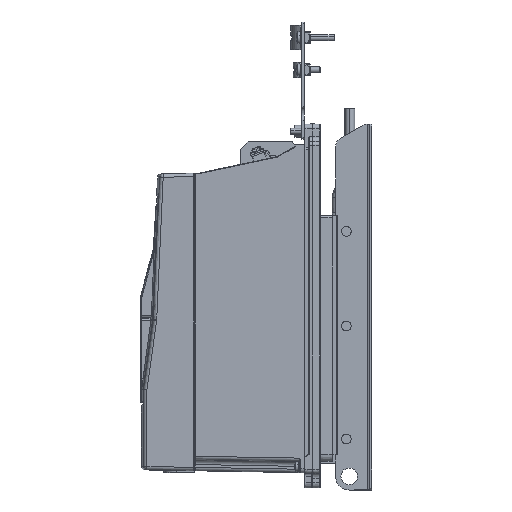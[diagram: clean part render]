
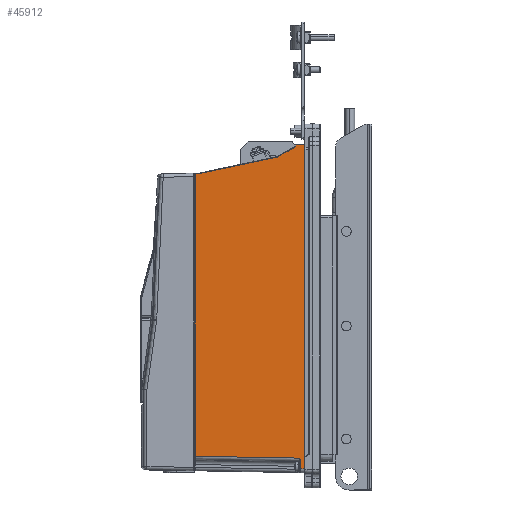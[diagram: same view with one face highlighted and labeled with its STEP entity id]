
A CAD part, left-side view. The second image highlights one B-rep face of the part: STEP entity #45912.
In plain terms, the highlighted planar face has unit normal (-1, 0.018, 0).
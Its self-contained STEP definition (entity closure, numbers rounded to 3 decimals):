
#1762 = EDGE_CURVE ( 'NONE', #13041, #16799, #10167, .T. ) ;
#3049 = CARTESIAN_POINT ( 'NONE',  ( -110.747, -49.991, -165.929 ) ) ;
#4026 = VERTEX_POINT ( 'NONE', #10146 ) ;
#4262 = DIRECTION ( 'NONE',  ( 0., 0., -1. ) ) ;
#5536 = VERTEX_POINT ( 'NONE', #27447 ) ;
#5671 = ORIENTED_EDGE ( 'NONE', *, *, #99084, .T. ) ;
#5962 =( BOUNDED_CURVE ( )  B_SPLINE_CURVE ( 3, ( #25282, #67404, #36617, #7217 ),
 .UNSPECIFIED., .F., .T. ) 
 B_SPLINE_CURVE_WITH_KNOTS ( ( 4, 4 ),
 ( 4.398, 4.712 ),
 .UNSPECIFIED. ) 
 CURVE ( )  GEOMETRIC_REPRESENTATION_ITEM ( )  RATIONAL_B_SPLINE_CURVE ( ( 1., 0.992, 0.992, 1. ) ) 
 REPRESENTATION_ITEM ( '' )  );
#6393 = DIRECTION ( 'NONE',  ( 0., 0., -1. ) ) ;
#6709 = CARTESIAN_POINT ( 'NONE',  ( -110.654, -44.808, 164.1 ) ) ;
#7217 = CARTESIAN_POINT ( 'NONE',  ( -110.332, -26.837, 153.723 ) ) ;
#7284 = VERTEX_POINT ( 'NONE', #102631 ) ;
#8069 = VECTOR ( 'NONE', #18035, 1000. ) ;
#8194 = ORIENTED_EDGE ( 'NONE', *, *, #116761, .T. ) ;
#9026 = ORIENTED_EDGE ( 'NONE', *, *, #95732, .F. ) ;
#9990 = VECTOR ( 'NONE', #89644, 1000. ) ;
#10146 = CARTESIAN_POINT ( 'NONE',  ( -110.332, -26.837, 153.723 ) ) ;
#10161 = VERTEX_POINT ( 'NONE', #3049 ) ;
#10167 = LINE ( 'NONE', #119344, #81721 ) ;
#10898 = ORIENTED_EDGE ( 'NONE', *, *, #64789, .F. ) ;
#11165 = LINE ( 'NONE', #102760, #70337 ) ;
#12871 = DIRECTION ( 'NONE',  ( 0.018, 1., 0. ) ) ;
#13041 = VERTEX_POINT ( 'NONE', #53077 ) ;
#13979 = CARTESIAN_POINT ( 'NONE',  ( -110.738, -49.482, -155.814 ) ) ;
#15276 = CARTESIAN_POINT ( 'NONE',  ( -110.745, -49.84, -156.69 ) ) ;
#16299 = EDGE_CURVE ( 'NONE', #10161, #23454, #11165, .T. ) ;
#16716 = CARTESIAN_POINT ( 'NONE',  ( -110.658, -44.991, 164.784 ) ) ;
#16799 = VERTEX_POINT ( 'NONE', #41734 ) ;
#17252 = CARTESIAN_POINT ( 'NONE',  ( -110.819, -54., 166. ) ) ;
#17343 = VECTOR ( 'NONE', #101302, 1000. ) ;
#18035 = DIRECTION ( 'NONE',  ( 0.018, 1., -0.017 ) ) ;
#19732 = CARTESIAN_POINT ( 'NONE',  ( -110.747, -49.991, -165.921 ) ) ;
#21921 =( BOUNDED_CURVE ( )  B_SPLINE_CURVE ( 3, ( #61088, #51017, #32282, #63036 ),
 .UNSPECIFIED., .F., .T. ) 
 B_SPLINE_CURVE_WITH_KNOTS ( ( 4, 4 ),
 ( 1.588, 1.78 ),
 .UNSPECIFIED. ) 
 CURVE ( )  GEOMETRIC_REPRESENTATION_ITEM ( )  RATIONAL_B_SPLINE_CURVE ( ( 1., 0.997, 0.997, 1. ) ) 
 REPRESENTATION_ITEM ( '' )  );
#22745 = VECTOR ( 'NONE', #105195, 1000. ) ;
#23454 = VERTEX_POINT ( 'NONE', #95020 ) ;
#24003 = CARTESIAN_POINT ( 'NONE',  ( -110.743, -49.76, -156.465 ) ) ;
#24117 = EDGE_LOOP ( 'NONE', ( #10898, #52427, #5671, #88235, #109429, #113691, #51712, #9026, #77729, #36623, #125024, #43619, #8194, #103725 ) ) ;
#24645 = EDGE_CURVE ( 'NONE', #70267, #4026, #5962, .T. ) ;
#25282 = CARTESIAN_POINT ( 'NONE',  ( -110.326, -26.545, 153.611 ) ) ;
#27447 = CARTESIAN_POINT ( 'NONE',  ( -110.658, -44.991, 166. ) ) ;
#32282 = CARTESIAN_POINT ( 'NONE',  ( -108.889, 53.518, 136.593 ) ) ;
#33676 = LINE ( 'NONE', #74469, #22745 ) ;
#34031 = CARTESIAN_POINT ( 'NONE',  ( -110.747, -49.991, -157.617 ) ) ;
#35518 = LINE ( 'NONE', #107046, #9990 ) ;
#36617 = CARTESIAN_POINT ( 'NONE',  ( -110.33, -26.746, 153.671 ) ) ;
#36623 = ORIENTED_EDGE ( 'NONE', *, *, #1762, .T. ) ;
#38072 = VECTOR ( 'NONE', #49155, 1000. ) ;
#38799 = CARTESIAN_POINT ( 'NONE',  ( -110.326, -26.545, 153.611 ) ) ;
#40586 = LINE ( 'NONE', #81383, #59442 ) ;
#41004 = FACE_OUTER_BOUND ( 'NONE', #24117, .T. ) ;
#41734 = CARTESIAN_POINT ( 'NONE',  ( -108.809, 58.009, -153.124 ) ) ;
#43619 = ORIENTED_EDGE ( 'NONE', *, *, #82553, .T. ) ;
#45912 = ADVANCED_FACE ( 'NONE', ( #41004 ), #61730, .F. ) ;
#47603 = AXIS2_PLACEMENT_3D ( 'NONE', #114494, #102523, #12871 ) ;
#49155 = DIRECTION ( 'NONE',  ( 0.016, 0.866, -0.5 ) ) ;
#51017 = CARTESIAN_POINT ( 'NONE',  ( -108.888, 53.582, 136.586 ) ) ;
#51456 = CARTESIAN_POINT ( 'NONE',  ( -110.649, -44.491, 163.917 ) ) ;
#51712 = ORIENTED_EDGE ( 'NONE', *, *, #85298, .T. ) ;
#52427 = ORIENTED_EDGE ( 'NONE', *, *, #110424, .T. ) ;
#53077 = CARTESIAN_POINT ( 'NONE',  ( -108.809, 58.009, 136.509 ) ) ;
#53239 = DIRECTION ( 'NONE',  ( -0.018, -1., -0.018 ) ) ;
#54262 = DIRECTION ( 'NONE',  ( -0.018, -1., -0.017 ) ) ;
#56957 = VERTEX_POINT ( 'NONE', #17252 ) ;
#58486 = CARTESIAN_POINT ( 'NONE',  ( -110.73, -49.009, -154.992 ) ) ;
#59442 = VECTOR ( 'NONE', #122134, 1000. ) ;
#59473 = CARTESIAN_POINT ( 'NONE',  ( -110.658, -44.991, 164.418 ) ) ;
#59858 = LINE ( 'NONE', #19732, #17343 ) ;
#61088 = CARTESIAN_POINT ( 'NONE',  ( -108.887, 53.646, 136.585 ) ) ;
#61704 = VERTEX_POINT ( 'NONE', #81890 ) ;
#61730 = PLANE ( 'NONE',  #47603 ) ;
#63036 = CARTESIAN_POINT ( 'NONE',  ( -108.891, 53.455, 136.607 ) ) ;
#63714 = VECTOR ( 'NONE', #54262, 1000. ) ;
#63788 = CARTESIAN_POINT ( 'NONE',  ( -110.819, -54., 170. ) ) ;
#64789 = EDGE_CURVE ( 'NONE', #56957, #23454, #95863, .T. ) ;
#67404 = CARTESIAN_POINT ( 'NONE',  ( -110.328, -26.648, 153.633 ) ) ;
#68592 = CARTESIAN_POINT ( 'NONE',  ( -110.33, -26.763, 153.681 ) ) ;
#69527 = LINE ( 'NONE', #108966, #8069 ) ;
#70267 = VERTEX_POINT ( 'NONE', #38799 ) ;
#70337 = VECTOR ( 'NONE', #53239, 1000. ) ;
#71067 = LINE ( 'NONE', #81092, #63714 ) ;
#71898 = CARTESIAN_POINT ( 'NONE',  ( -110.658, -44.991, 164.784 ) ) ;
#73695 = VERTEX_POINT ( 'NONE', #51456 ) ;
#74469 = CARTESIAN_POINT ( 'NONE',  ( -108.8, 58.5, 166. ) ) ;
#76168 = CARTESIAN_POINT ( 'NONE',  ( -110.734, -49.246, -155.402 ) ) ;
#77729 = ORIENTED_EDGE ( 'NONE', *, *, #100454, .T. ) ;
#79528 = VERTEX_POINT ( 'NONE', #71898 ) ;
#81092 = CARTESIAN_POINT ( 'NONE',  ( -108.699, 64.136, -153.017 ) ) ;
#81383 = CARTESIAN_POINT ( 'NONE',  ( -108.926, 51.493, 137.024 ) ) ;
#81721 = VECTOR ( 'NONE', #6393, 1000. ) ;
#81890 = CARTESIAN_POINT ( 'NONE',  ( -108.887, 53.646, 136.585 ) ) ;
#82553 = EDGE_CURVE ( 'NONE', #103867, #95142, #103325, .T. ) ;
#84621 = EDGE_CURVE ( 'NONE', #73695, #4026, #120691, .T. ) ;
#84862 = CARTESIAN_POINT ( 'NONE',  ( -110.747, -49.956, -157.147 ) ) ;
#85298 = EDGE_CURVE ( 'NONE', #70267, #7284, #40586, .T. ) ;
#87019 = EDGE_CURVE ( 'NONE', #16799, #103867, #71067, .T. ) ;
#88235 = ORIENTED_EDGE ( 'NONE', *, *, #114232, .F. ) ;
#89644 = DIRECTION ( 'NONE',  ( 0., 0., -1. ) ) ;
#95020 = CARTESIAN_POINT ( 'NONE',  ( -110.819, -54., -166.001 ) ) ;
#95142 = VERTEX_POINT ( 'NONE', #97397 ) ;
#95732 = EDGE_CURVE ( 'NONE', #61704, #7284, #21921, .T. ) ;
#95863 = LINE ( 'NONE', #63788, #130547 ) ;
#96197 = CARTESIAN_POINT ( 'NONE',  ( -110.747, -49.991, -157.379 ) ) ;
#97397 = CARTESIAN_POINT ( 'NONE',  ( -110.747, -49.991, -157.617 ) ) ;
#99084 = EDGE_CURVE ( 'NONE', #5536, #79528, #35518, .T. ) ;
#100454 = EDGE_CURVE ( 'NONE', #61704, #13041, #69527, .T. ) ;
#101302 = DIRECTION ( 'NONE',  ( 0., 0., -1. ) ) ;
#102523 = DIRECTION ( 'NONE',  ( 1., -0.018, 0. ) ) ;
#102631 = CARTESIAN_POINT ( 'NONE',  ( -108.891, 53.455, 136.607 ) ) ;
#102760 = CARTESIAN_POINT ( 'NONE',  ( -108.693, 64.434, -163.895 ) ) ;
#103325 = B_SPLINE_CURVE_WITH_KNOTS ( 'NONE', 3,
 ( #125609, #76168, #13979, #24003, #15276, #84862, #96197, #34031 ),
 .UNSPECIFIED., .F., .F.,
 ( 4, 2, 2, 4 ),
 ( 0., 0.001, 0.002, 0.003 ),
 .UNSPECIFIED. ) ;
#103725 = ORIENTED_EDGE ( 'NONE', *, *, #16299, .T. ) ;
#103867 = VERTEX_POINT ( 'NONE', #58486 ) ;
#105195 = DIRECTION ( 'NONE',  ( 0.018, 1., 0. ) ) ;
#107046 = CARTESIAN_POINT ( 'NONE',  ( -110.658, -44.991, 170. ) ) ;
#108324 = CARTESIAN_POINT ( 'NONE',  ( -110.649, -44.491, 163.917 ) ) ;
#108966 = CARTESIAN_POINT ( 'NONE',  ( -108.81, 57.916, 136.51 ) ) ;
#109429 = ORIENTED_EDGE ( 'NONE', *, *, #84621, .T. ) ;
#110424 = EDGE_CURVE ( 'NONE', #56957, #5536, #33676, .T. ) ;
#113691 = ORIENTED_EDGE ( 'NONE', *, *, #24645, .F. ) ;
#114232 = EDGE_CURVE ( 'NONE', #73695, #79528, #119769, .T. ) ;
#114494 = CARTESIAN_POINT ( 'NONE',  ( -108.8, 58.5, 170. ) ) ;
#116761 = EDGE_CURVE ( 'NONE', #95142, #10161, #59858, .T. ) ;
#119344 = CARTESIAN_POINT ( 'NONE',  ( -108.809, 58.009, 170. ) ) ;
#119769 =( BOUNDED_CURVE ( )  B_SPLINE_CURVE ( 3, ( #108324, #6709, #59473, #16716 ),
 .UNSPECIFIED., .F., .T. ) 
 B_SPLINE_CURVE_WITH_KNOTS ( ( 4, 4 ),
 ( 4.712, 5.76 ),
 .UNSPECIFIED. ) 
 CURVE ( )  GEOMETRIC_REPRESENTATION_ITEM ( )  RATIONAL_B_SPLINE_CURVE ( ( 1., 0.911, 0.911, 1. ) ) 
 REPRESENTATION_ITEM ( '' )  );
#120691 = LINE ( 'NONE', #68592, #38072 ) ;
#122134 = DIRECTION ( 'NONE',  ( 0.018, 0.978, -0.208 ) ) ;
#125024 = ORIENTED_EDGE ( 'NONE', *, *, #87019, .T. ) ;
#125609 = CARTESIAN_POINT ( 'NONE',  ( -110.73, -49.009, -154.992 ) ) ;
#130547 = VECTOR ( 'NONE', #4262, 1000. ) ;
